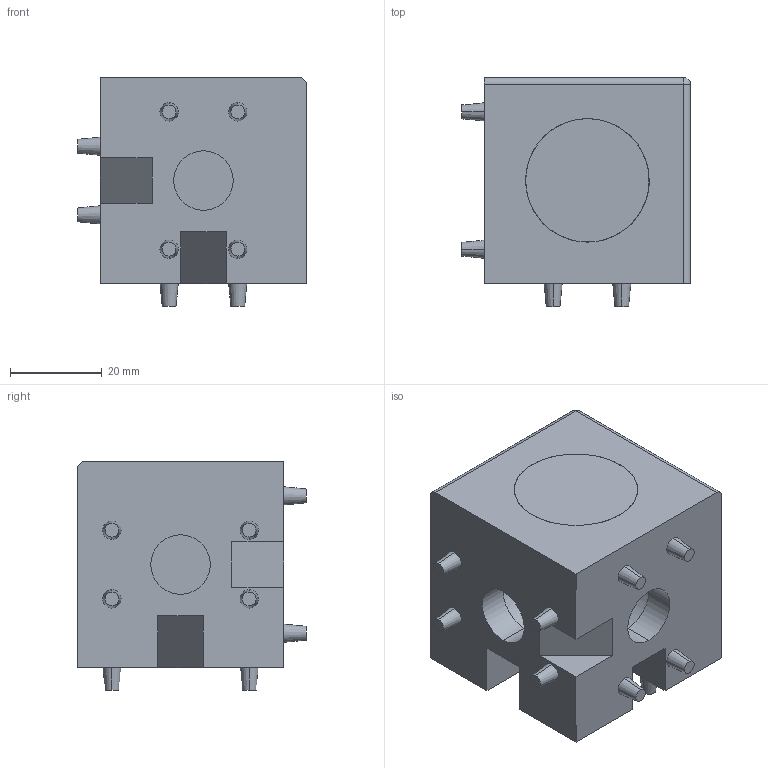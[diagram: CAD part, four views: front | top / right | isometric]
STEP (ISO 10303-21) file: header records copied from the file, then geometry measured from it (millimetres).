
FILE_DESCRIPTION (( 'STEP AP214' ), '1' );
FILE_NAME ('SNSD.30.52.94. 3-õ ñòîðîííèé ñîåäèíèòåëü 45õ45_D, ïàç 10(S166).STEP', '2015-08-18T08:17:06', ( 'user' ), ( '' ), 'SwSTEP 2.0', 'SolidWorks 2014', '' );
FILE_SCHEMA (( 'AUTOMOTIVE_DESIGN' ));
Length unit declared in the file: millimetre
Products named in the file (7): SNSD.30.51.58. 3-õ ñòîðîííèé ñîåäèíèòåëü 45õ45, ïàç 10(E51)S166; SNSD.30.52.94. 3-õ ñòîðîííèé ñîåäèíèòåëü 45õ45_D, ïàç 10(S166); SNSD.30.51.58. 青汶篪赅(E51)S166_00; SNSD.30.51.58. 3-õ ñòîðîííèé ñîåäèíèòåëü 45õ45, ïàç 10(E51)S166_00; SNSD.30.51.58. 青汶篪赅(E51)S166
Assembly tree (4 placements, depth 2):
  SNSD.30.51.58. 3-õ ñòîðîííèé ñîåäèíèòåëü 45õ45, ïàç 10(E51)S166
  SNSD.30.52.94. 3-õ ñòîðîííèé ñîåäèíèòåëü 45õ45_D, ïàç 10(S166)
    SNSD.30.51.58. 3-õ ñòîðîííèé ñîåäèíèòåëü 45õ45, ïàç 10(E51)S166_00
    SNSD.30.51.58. 青汶篪赅(E51)S166_00  x3
  SNSD.30.51.58. 青汶篪赅(E51)S166
  SNSD.30.51.58. 青汶篪赅(E51)S166
  SNSD.30.51.58. 青汶篪赅(E51)S166
Bounding box: 50 x 50 x 50 mm (x, y, z)
Volume: 58310.2 mm3; surface area: 21069.6 mm2
Topology: 4 solids, 4 shells, 184 faces, 462 edges, 302 vertices
Faces by surface type: plane 66, cone 63, cylinder 54, sphere 1
Entity records: 3808 total; most frequent: CARTESIAN_POINT 853, DIRECTION 614, ORIENTED_EDGE 566, EDGE_CURVE 283, AXIS2_PLACEMENT_3D 243, VERTEX_POINT 184, EDGE_LOOP 139, LINE 128
